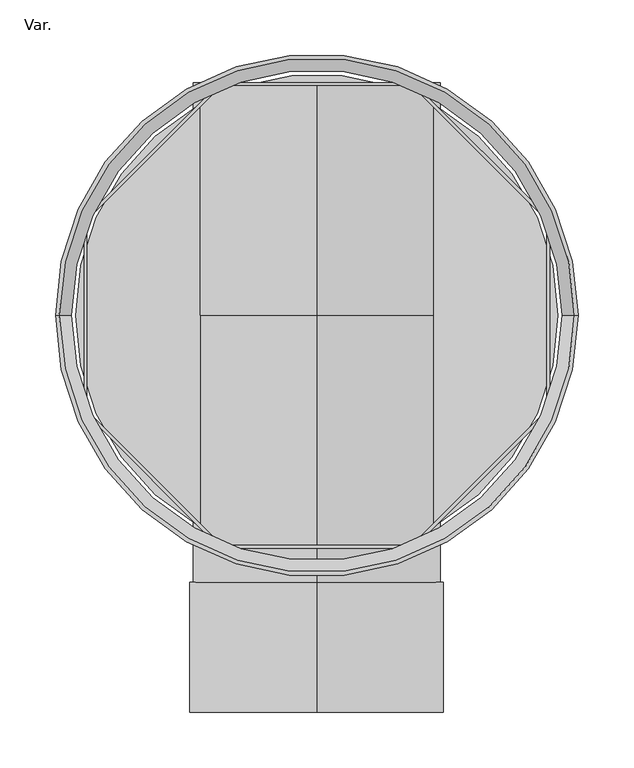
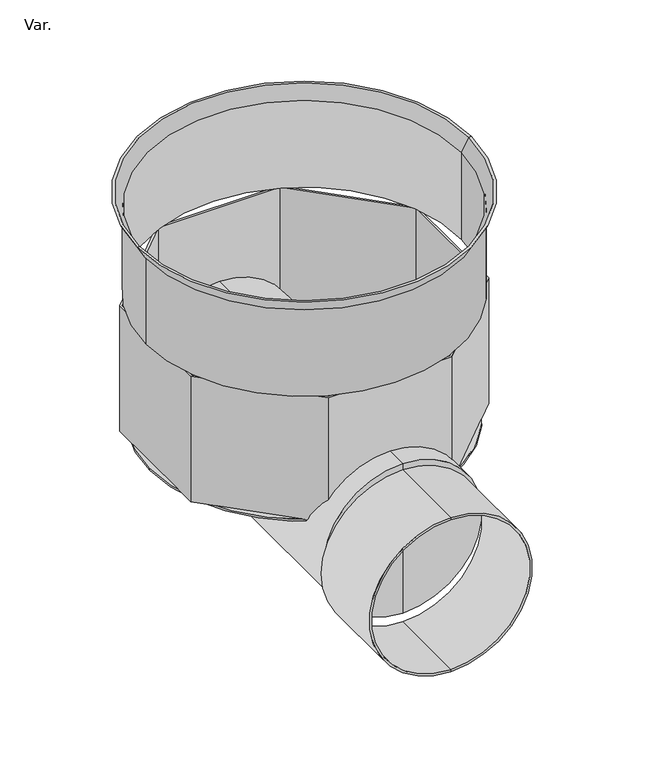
"""IFC4 building model written with IfcOpenShell, lengths in millimetres: pipe fitting geometry, PlastigamaWavin_Unionesdetubería_NovafortCajaAceraArranque220mm : Var.."""

import ifcopenshell
import ifcopenshell.guid

model = None  # the IFC model being written
_history = None  # IfcOwnerHistory: only IFC2X3 demands one
_inside = {}  # id of a spatial element -> (the spatial element, [elements in it])
_under = {}  # id of a project, library or spatial element -> (it, [spatial elements below it])
_declared = {}  # id of a project -> (the project, [libraries it declares])
_typed = {}  # id of a type object -> (the type object, [elements of that type])
_made_of = {}  # id of a material, layer set ... -> (it, [elements and type objects made of it])


def new_model(schema):
    """Start an empty IFC model of exactly this schema.

    Asked for "IFC4X3", IfcOpenShell would pick the latest addendum, in which some entities
    have other attributes; the version numbers below select the first issue.
    IFC2X3 requires an IfcOwnerHistory on every rooted entity: one is made here for all.
    """
    global model, _history
    if schema == "IFC4X3":
        model = ifcopenshell.file(schema_version=(4, 3, 0, 0))
    else:
        model = ifcopenshell.file(schema=schema)
    _inside.clear()
    _under.clear()
    _declared.clear()
    _typed.clear()
    _made_of.clear()
    _history = None
    if model.schema == "IFC2X3":
        org = make("IfcOrganization", Name="unknown")
        user = make(
            "IfcPersonAndOrganization",
            ThePerson=make("IfcPerson", FamilyName="unknown"),
            TheOrganization=org,
        )
        app = make(
            "IfcApplication",
            ApplicationDeveloper=org,
            Version="unknown",
            ApplicationFullName="unknown",
            ApplicationIdentifier="unknown",
        )
        _history = make(
            "IfcOwnerHistory",
            OwningUser=user,
            OwningApplication=app,
            ChangeAction="ADDED",
            CreationDate=0,
        )
    return model


def make(cls, **values):
    """One entity of the class cls with the attributes given. An attribute that is None is left unset."""
    return model.create_entity(
        cls, **{name: value for name, value in values.items() if value is not None}
    )


def rooted(cls, **values):
    """An entity with a GlobalId (a new one), such as an element, a storey or a relation."""
    return make(cls, GlobalId=ifcopenshell.guid.new(), OwnerHistory=_history, **values)


def si_unit(unit_type, name, prefix=None):
    """IfcSIUnit, for example si_unit("LENGTHUNIT", "METRE", prefix="MILLI")."""
    return make("IfcSIUnit", UnitType=unit_type, Prefix=prefix, Name=name)


def assignment(units):
    """IfcUnitAssignment: the units of a project."""
    return None if units is None else make("IfcUnitAssignment", Units=units)


def point(xyz):
    """IfcCartesianPoint."""
    return None if xyz is None else make("IfcCartesianPoint", Coordinates=xyz)


def direction(xyz):
    """IfcDirection."""
    return None if xyz is None else make("IfcDirection", DirectionRatios=xyz)


def frame(location, z_axis=None, x_axis=None):
    """IfcAxis2Placement3D, a coordinate frame: its origin and axes. An axis left out is left unset."""
    return make(
        "IfcAxis2Placement3D",
        Location=point(location),
        Axis=direction(z_axis),
        RefDirection=direction(x_axis),
    )


def frame_2d(location, x_axis=None):
    """IfcAxis2Placement2D, a coordinate frame in the plane: its origin and x axis."""
    return make(
        "IfcAxis2Placement2D", Location=point(location), RefDirection=direction(x_axis)
    )


def origin():
    """The frame at (0, 0, 0) with its axes left unset."""
    return frame((0.0, 0.0, 0.0))


def origin_with_axes():
    """The frame at (0, 0, 0) with the z axis (0, 0, 1) and the x axis (1, 0, 0) written out."""
    return frame((0.0, 0.0, 0.0), z_axis=(0.0, 0.0, 1.0), x_axis=(1.0, 0.0, 0.0))


def origin_2d():
    """The frame at (0, 0) in the plane with its x axis left unset."""
    return frame_2d((0.0, 0.0))


def place(relative_to, where):
    """IfcLocalPlacement: puts the frame where relative to a parent placement (None: the world)."""
    return make(
        "IfcLocalPlacement", PlacementRelTo=relative_to, RelativePlacement=where
    )


def context(
    kind, dimensions, precision=None, world=None, true_north=None, identifier=None
):
    """IfcGeometricRepresentationContext, for example the 3D "Model" context."""
    return make(
        "IfcGeometricRepresentationContext",
        ContextIdentifier=identifier,
        ContextType=kind,
        CoordinateSpaceDimension=dimensions,
        Precision=precision,
        WorldCoordinateSystem=world,
        TrueNorth=true_north,
    )


def project(units=None, contexts=None):
    """IfcProject with its units and contexts."""
    return rooted(
        "IfcProject",
        Name="project",
        RepresentationContexts=contexts,
        UnitsInContext=assignment(units),
    )


def spatial(cls, under=None, at=None, **own):
    """A site, building, storey or space (cls), placed at a placement, below another one or the project."""
    s = rooted(cls, ObjectPlacement=at, **own)
    if under is not None:
        _under.setdefault(under.id(), (under, []))[1].append(s)
    return s


def polyline(points):
    """IfcPolyline through the points."""
    return make("IfcPolyline", Points=[point(p) for p in points])


def circle_curve(where, radius):
    """IfcCircle in the frame where."""
    return make("IfcCircle", Position=where, Radius=radius)


def trimmed(basis, trim1, trim2, sense, master):
    """IfcTrimmedCurve: the piece of a basis curve between two trims."""
    return make(
        "IfcTrimmedCurve",
        BasisCurve=basis,
        Trim1=trim1,
        Trim2=trim2,
        SenseAgreement=sense,
        MasterRepresentation=master,
    )


def segment(curve, same_sense, transition):
    """IfcCompositeCurveSegment."""
    return make(
        "IfcCompositeCurveSegment",
        Transition=transition,
        SameSense=same_sense,
        ParentCurve=curve,
    )


def composite_curve(segments, self_intersect=None):
    """IfcCompositeCurve: segments joined end to end."""
    return make("IfcCompositeCurve", Segments=segments, SelfIntersect=self_intersect)


def outline(outer, holes=None, kind="AREA"):
    """IfcArbitraryClosedProfileDef: a profile drawn as a closed curve; with holes, ...WithVoids."""
    if holes is None:
        return make("IfcArbitraryClosedProfileDef", ProfileType=kind, OuterCurve=outer)
    return make(
        "IfcArbitraryProfileDefWithVoids",
        ProfileType=kind,
        OuterCurve=outer,
        InnerCurves=holes,
    )


def extrude(swept, where, along, depth):
    """IfcExtrudedAreaSolid: the profile swept, set in the frame where, extruded along a direction by depth."""
    return make(
        "IfcExtrudedAreaSolid",
        SweptArea=swept,
        Position=where,
        ExtrudedDirection=direction(along),
        Depth=depth,
    )


def shape(context_of_items, identifier, shape_type, items):
    """IfcShapeRepresentation: the items that make up one representation, for example the "Body"."""
    return make(
        "IfcShapeRepresentation",
        ContextOfItems=context_of_items,
        RepresentationIdentifier=identifier,
        RepresentationType=shape_type,
        Items=items,
    )


def source(mapping_origin, context_of_items, identifier, shape_type, items):
    """IfcRepresentationMap: a shape defined once, which mapped items show again and again."""
    return make(
        "IfcRepresentationMap",
        MappingOrigin=mapping_origin,
        MappedRepresentation=shape(context_of_items, identifier, shape_type, items),
    )


def transform(
    local_origin,
    x_axis=None,
    y_axis=None,
    z_axis=None,
    scale=None,
    scale2=None,
    scale3=None,
    uniform=True,
):
    """IfcCartesianTransformationOperator3D, or its non-uniform kind. x_axis, y_axis, z_axis: its Axis1, 2, 3."""
    if uniform:
        return make(
            "IfcCartesianTransformationOperator3D",
            Axis1=direction(x_axis),
            Axis2=direction(y_axis),
            LocalOrigin=point(local_origin),
            Scale=scale,
            Axis3=direction(z_axis),
        )
    return make(
        "IfcCartesianTransformationOperator3DnonUniform",
        Axis1=direction(x_axis),
        Axis2=direction(y_axis),
        LocalOrigin=point(local_origin),
        Scale=scale,
        Axis3=direction(z_axis),
        Scale2=scale2,
        Scale3=scale3,
    )


def mapped(mapping_source, mapping_target):
    """IfcMappedItem: shows the shape of a source again, moved by a transform."""
    return make(
        "IfcMappedItem", MappingSource=mapping_source, MappingTarget=mapping_target
    )


def made_of(thing, what):
    """Note that an element or type object is made of a material, layer set ...; save() writes the relation."""
    if what is not None:
        _made_of.setdefault(what.id(), (what, []))[1].append(thing)
    return thing


def element(
    cls,
    number,
    at=None,
    inside=None,
    cuts=None,
    type_object=None,
    material=None,
    context=None,
    identifier="Body",
    shape_type=None,
    held_by="IfcProductDefinitionShape",
    body=None,
    shapes=None,
    **own,
):
    """One element of the class cls, such as IfcWall. Its Tag is "e" and its number.

    at: its placement. inside: the storey or other place that contains it. cuts: it is an
    opening in that element (IfcRelVoidsElement). A single representation is given by context,
    identifier, shape_type and body (its items); several are given by shapes. held_by: the class
    of the entity that holds the representations. save() writes the other relations.
    """
    e = rooted(cls, Tag="e%d" % number, ObjectPlacement=at, **own)
    if body is not None:
        shapes = [shape(context, identifier, shape_type, body)]
    if shapes is not None:
        e.Representation = make(held_by, Representations=shapes)
    if inside is not None:
        _inside.setdefault(inside.id(), (inside, []))[1].append(e)
    if cuts is not None:
        rooted(
            "IfcRelVoidsElement", RelatingBuildingElement=cuts, RelatedOpeningElement=e
        )
    if type_object is not None:
        _typed.setdefault(type_object.id(), (type_object, []))[1].append(e)
    return made_of(e, material)


def aggregate(whole, parts):
    """IfcRelAggregates: a whole, such as a stair, and the parts it consists of."""
    return rooted("IfcRelAggregates", RelatingObject=whole, RelatedObjects=parts)


def save(model, path):
    """Write the relations noted so far, then the file.

    IfcRelAggregates (storeys below a building ...), IfcRelContainedInSpatialStructure (elements
    in a storey), IfcRelDefinesByType, IfcRelAssociatesMaterial and IfcRelDeclares: one each for
    every whole, place, type object, material and project.
    """
    for whole, parts in _under.values():
        aggregate(whole, parts)
    for where, things in _inside.values():
        rooted(
            "IfcRelContainedInSpatialStructure",
            RelatedElements=things,
            RelatingStructure=where,
        )
    for kind, things in _typed.values():
        rooted("IfcRelDefinesByType", RelatedObjects=things, RelatingType=kind)
    for what, things in _made_of.values():
        rooted("IfcRelAssociatesMaterial", RelatedObjects=things, RelatingMaterial=what)
    for by, libraries in _declared.values():
        rooted("IfcRelDeclares", RelatingContext=by, RelatedDefinitions=libraries)
    model.write(path)


def plane_surface(at):
    """IfcPlane: the flat surface through the origin of the frame at, square to its z axis."""
    return make("IfcPlane", Position=at)


def cylinder_surface(at, radius):
    """IfcCylindricalSurface: all points at the distance radius from the z axis of the frame at."""
    return make("IfcCylindricalSurface", Position=at, Radius=radius)


def revolved_surface(curve, axis_point, axis_direction):
    """IfcSurfaceOfRevolution: the curve turned about the line through axis_point along axis_direction."""
    return make(
        "IfcSurfaceOfRevolution",
        SweptCurve=make("IfcArbitraryOpenProfileDef", ProfileType="CURVE", Curve=curve),
        AxisPosition=make("IfcAxis1Placement", Location=point(axis_point), Axis=direction(axis_direction)),
    )


def advanced_brep(points, edges, surfaces, faces):
    """IfcAdvancedBrep: a solid bounded by faces that lie on surfaces and meet in shared edges.

    An edge is (start, end): straight between two places in points (the first is 0);
    or (start, end, curve); or (start, end, curve, False) where it runs against its curve.
    A face is (place in surfaces, loops), or (place, loops, False) where it looks against
    its surface's normal. A loop lists edges by number (the first is 1), with a minus sign
    where the edge is run from its end to its start. The first loop is the outer one.
    """
    corners = [point(p) for p in points]
    vertices = [make("IfcVertexPoint", VertexGeometry=c) for c in corners]
    made = []
    for start, end, *more in edges:
        made.append(
            make(
                "IfcEdgeCurve",
                EdgeStart=vertices[start],
                EdgeEnd=vertices[end],
                EdgeGeometry=more[0] if more else make("IfcPolyline", Points=[corners[start], corners[end]]),
                SameSense=more[1] if len(more) > 1 else True,
            )
        )
    hull = []
    for where, loops, *sense in faces:
        bounds = []
        for j, loop in enumerate(loops):
            ring = [make("IfcOrientedEdge", EdgeElement=made[abs(k) - 1], Orientation=k > 0) for k in loop]
            bounds.append(
                make(
                    "IfcFaceOuterBound" if j == 0 else "IfcFaceBound",
                    Bound=make("IfcEdgeLoop", EdgeList=ring),
                    Orientation=True,
                )
            )
        hull.append(make("IfcAdvancedFace", Bounds=bounds, FaceSurface=surfaces[where], SameSense=sense[0] if sense else True))
    return make("IfcAdvancedBrep", Outer=make("IfcClosedShell", CfsFaces=hull))


def var_989bb4be(model_context):
    return source(origin(), model_context, "Body", "SolidModel", [
        advanced_brep(
        [(-231.6019238, 0.0, 148.8205081), (231.6019238, 0.0, 148.8205081), (235.0660254, 0.0, 148.8205081), (-235.0660254, 0.0, 148.8205081), (-220.7358984, 0.0, 130.0), (220.7358984, 0.0, 130.0), (-224.2, 0.0, 130.0), (224.2, 0.0, 130.0)],
        [
            (0, 1, circle_curve(frame((0.0, 0.0, 148.8205081), z_axis=(0.0, 0.0, -1.0), x_axis=(1.0, 0.0, 0.0)), 231.6019238)),
            (1, 2),
            (2, 3, circle_curve(frame((0.0, 0.0, 148.8205081), z_axis=(0.0, 0.0, 1.0), x_axis=(1.0, 0.0, 0.0)), 235.0660254)),
            (3, 0),
            (1, 0, circle_curve(frame((0.0, 0.0, 148.8205081), z_axis=(0.0, 0.0, -1.0), x_axis=(1.0, 0.0, 0.0)), 231.6019238)),
            (3, 2, circle_curve(frame((0.0, 0.0, 148.8205081), z_axis=(0.0, 0.0, 1.0), x_axis=(1.0, 0.0, 0.0)), 235.0660254)),
            (4, 5, circle_curve(frame((0.0, 0.0, 130.0), z_axis=(0.0, 0.0, -1.0), x_axis=(1.0, 0.0, 0.0)), 220.7358984)),
            (5, 1),
            (0, 4),
            (5, 4, circle_curve(frame((0.0, 0.0, 130.0), z_axis=(0.0, 0.0, -1.0), x_axis=(1.0, 0.0, 0.0)), 220.7358984)),
            (6, 7, circle_curve(frame((0.0, 0.0, 130.0), z_axis=(0.0, 0.0, -1.0), x_axis=(1.0, 0.0, 0.0)), 224.2)),
            (7, 5),
            (4, 6),
            (7, 6, circle_curve(frame((0.0, 0.0, 130.0), z_axis=(0.0, 0.0, -1.0), x_axis=(1.0, 0.0, 0.0)), 224.2)),
            (2, 7),
            (6, 3),
        ],
        [
            plane_surface(frame((0.0, 0.0, 148.8205081), z_axis=(0.0, 0.0, 1.0), x_axis=(1.0, 0.0, 0.0))),
            revolved_surface(polyline([(231.6019238, 0.0, 148.8205081), (220.7358984, 0.0, 130.0)]), (0.0, 0.0, 2214.3150031), (0.0, 0.0, 1.0)),
            plane_surface(frame((0.0, 0.0, 130.0), z_axis=(0.0, 0.0, -1.0), x_axis=(1.0, 0.0, 0.0))),
            revolved_surface(polyline([(224.2, 0.0, 130.0), (235.0660254, 0.0, 148.8205081)]), (0.0, 0.0, 2214.3150031), (0.0, 0.0, 1.0)),
        ],
        [
            (0, [[1, 2, 3, 4]]),
            (0, [[5, -4, 6, -2]]),
            (1, [[7, 8, -1, 9]]),
            (1, [[10, -9, -5, -8]]),
            (2, [[11, 12, -7, 13]]),
            (2, [[14, -13, -10, -12]]),
            (3, [[-3, 15, -11, 16]]),
            (3, [[-6, -16, -14, -15]]),
        ],
    ),
        advanced_brep(
        [(0.0, 209.44, -331.99), (0.0, 209.44, -109.99), (0.0, 209.44, -220.99), (0.0, 0.0, -220.99), (0.0, 0.0, -109.99), (0.0, 0.0, -331.99)],
        [
            (0, 1, circle_curve(frame((0.0, 209.44, -220.99), z_axis=(0.0, 1.0, 0.0), x_axis=(0.0, 0.0, 1.0)), 111.0)),
            (1, 2),
            (2, 0),
            (1, 0, circle_curve(frame((0.0, 209.44, -220.99), z_axis=(0.0, 1.0, 0.0), x_axis=(0.0, 0.0, 1.0)), 111.0)),
            (3, 4),
            (4, 5, circle_curve(frame((0.0, 0.0, -220.99), z_axis=(0.0, -1.0, 0.0), x_axis=(0.0, 0.0, 1.0)), 111.0)),
            (5, 3),
            (5, 4, circle_curve(frame((0.0, 0.0, -220.99), z_axis=(0.0, -1.0, 0.0), x_axis=(0.0, 0.0, 1.0)), 111.0)),
            (4, 1),
            (0, 5),
        ],
        [
            plane_surface(frame((0.0, 209.44, -220.99), z_axis=(0.0, 1.0, 0.0), x_axis=(0.0, 0.0, 1.0))),
            plane_surface(frame((0.0, 0.0, -220.99), z_axis=(0.0, -1.0, 0.0), x_axis=(0.0, 0.0, 1.0))),
            cylinder_surface(frame((0.0, 0.0, -220.99), z_axis=(0.0, -1.0, 0.0), x_axis=(0.0, 0.0, 1.0)), 111.0),
        ],
        [
            (0, [[1, 2, 3]]),
            (0, [[4, -3, -2]]),
            (1, [[5, 6, 7]]),
            (1, [[-7, 8, -5]]),
            (2, [[-6, 9, -1, 10]]),
            (2, [[-8, -10, -4, -9]]),
        ],
    ),
        extrude(outline(composite_curve([segment(trimmed(circle_curve(origin_2d(), 217.0), [point((-217.0, 0.0))], [point((217.0, 0.0))], False, "CARTESIAN"), True, "CONTINUOUS"), segment(trimmed(circle_curve(origin_2d(), 217.0), [point((217.0, 0.0))], [point((-217.0, 0.0))], False, "CARTESIAN"), True, "CONTINUOUS")], self_intersect=False)), frame((0.0, 0.0, -189.41), z_axis=(0.0, 0.0, 1.0), x_axis=(1.0, 0.0, 0.0)), (0.0, 0.0, 1.0), 3.0),
        advanced_brep(
        [(0.0, -357.2, -345.15), (0.0, -357.2, -122.15), (0.0, -357.2, -119.15), (0.0, -357.2, -348.15), (0.0, -240.2, -348.15), (0.0, -240.2, -119.15), (0.0, -240.2, -122.15), (0.0, -240.2, -345.15)],
        [
            (0, 1, circle_curve(frame((0.0, -357.2, -233.65), z_axis=(0.0, 1.0, 0.0), x_axis=(0.0, 0.0, 1.0)), 111.5)),
            (1, 2),
            (2, 3, circle_curve(frame((0.0, -357.2, -233.65), z_axis=(0.0, -1.0, 0.0), x_axis=(0.0, 0.0, 1.0)), 114.5)),
            (3, 0),
            (1, 0, circle_curve(frame((0.0, -357.2, -233.65), z_axis=(0.0, 1.0, 0.0), x_axis=(0.0, 0.0, 1.0)), 111.5)),
            (3, 2, circle_curve(frame((0.0, -357.2, -233.65), z_axis=(0.0, -1.0, 0.0), x_axis=(0.0, 0.0, 1.0)), 114.5)),
            (4, 5, circle_curve(frame((0.0, -240.2, -233.65), z_axis=(0.0, 1.0, 0.0), x_axis=(0.0, 0.0, 1.0)), 114.5)),
            (5, 6),
            (6, 7, circle_curve(frame((0.0, -240.2, -233.65), z_axis=(0.0, -1.0, 0.0), x_axis=(0.0, 0.0, 1.0)), 111.5)),
            (7, 4),
            (5, 4, circle_curve(frame((0.0, -240.2, -233.65), z_axis=(0.0, 1.0, 0.0), x_axis=(0.0, 0.0, 1.0)), 114.5)),
            (7, 6, circle_curve(frame((0.0, -240.2, -233.65), z_axis=(0.0, -1.0, 0.0), x_axis=(0.0, 0.0, 1.0)), 111.5)),
            (2, 5),
            (4, 3),
            (6, 1),
            (0, 7),
        ],
        [
            plane_surface(frame((0.0, -357.2, -233.65), z_axis=(0.0, -1.0, 0.0), x_axis=(0.0, 0.0, 1.0))),
            plane_surface(frame((0.0, -240.2, -233.65), z_axis=(0.0, 1.0, 0.0), x_axis=(0.0, 0.0, 1.0))),
            cylinder_surface(frame((0.0, -249.0327013, -233.65), z_axis=(0.0, -1.0, 0.0), x_axis=(0.0, 0.0, 1.0)), 114.5),
            revolved_surface(polyline([(0.0, -357.2, -122.15), (0.0, -240.2, -122.15)]), (0.0, -249.0327013, -233.65), (0.0, -1.0, 0.0)),
        ],
        [
            (0, [[1, 2, 3, 4]]),
            (0, [[5, -4, 6, -2]]),
            (1, [[7, 8, 9, 10]]),
            (1, [[11, -10, 12, -8]]),
            (2, [[-3, 13, -7, 14]]),
            (2, [[-6, -14, -11, -13]]),
            (3, [[-9, 15, -1, 16]]),
            (3, [[-12, -16, -5, -15]]),
        ],
    ),
        advanced_brep(
        [(0.0, -240.2, -220.99), (0.0, -240.2, -109.99), (0.0, -240.2, -331.99), (0.0, 0.0, -331.99), (0.0, 0.0, -109.99), (0.0, 0.0, -220.99)],
        [
            (0, 1),
            (1, 2, circle_curve(frame((0.0, -240.2, -220.99), z_axis=(0.0, -1.0, 0.0), x_axis=(0.0, 0.0, 1.0)), 111.0)),
            (2, 0),
            (2, 1, circle_curve(frame((0.0, -240.2, -220.99), z_axis=(0.0, -1.0, 0.0), x_axis=(0.0, 0.0, 1.0)), 111.0)),
            (3, 4, circle_curve(frame((0.0, 0.0, -220.99), z_axis=(0.0, 1.0, 0.0), x_axis=(0.0, 0.0, 1.0)), 111.0)),
            (4, 5),
            (5, 3),
            (4, 3, circle_curve(frame((0.0, 0.0, -220.99), z_axis=(0.0, 1.0, 0.0), x_axis=(0.0, 0.0, 1.0)), 111.0)),
            (1, 4),
            (3, 2),
        ],
        [
            plane_surface(frame((0.0, -240.2, -220.99), z_axis=(0.0, -1.0, 0.0), x_axis=(0.0, 0.0, 1.0))),
            plane_surface(frame((0.0, 0.0, -220.99), z_axis=(0.0, 1.0, 0.0), x_axis=(0.0, 0.0, 1.0))),
            cylinder_surface(frame((0.0, 0.0, -220.99), z_axis=(0.0, -1.0, 0.0), x_axis=(0.0, 0.0, 1.0)), 111.0),
        ],
        [
            (0, [[1, 2, 3]]),
            (0, [[-3, 4, -1]]),
            (1, [[5, 6, 7]]),
            (1, [[8, -7, -6]]),
            (2, [[-2, 9, -5, 10]]),
            (2, [[-4, -10, -8, -9]]),
        ],
    ),
        extrude(outline(composite_curve([segment(trimmed(circle_curve(origin_2d(), 222.2), [point((-222.2, 0.0))], [point((222.2, 0.0))], False, "CARTESIAN"), True, "CONTINUOUS"), segment(trimmed(circle_curve(origin_2d(), 222.2), [point((222.2, 0.0))], [point((-222.2, 0.0))], False, "CARTESIAN"), True, "CONTINUOUS")], self_intersect=False), holes=[composite_curve([segment(trimmed(circle_curve(origin_2d(), 222.0), [point((-222.0, 0.0))], [point((222.0, 0.0))], True, "CARTESIAN"), True, "CONTINUOUS"), segment(trimmed(circle_curve(origin_2d(), 222.0), [point((222.0, 0.0))], [point((-222.0, 0.0))], True, "CARTESIAN"), True, "CONTINUOUS")], self_intersect=False)]), origin_with_axes(), (0.0, 0.0, 1.0), 130.0),
        extrude(outline(polyline([(-209.44, 86.7528885), (-86.7528885, 209.44), (86.7528885, 209.44), (209.44, 86.7528885), (209.44, -86.7528885), (86.7528885, -209.44), (-86.7528885, -209.44), (-209.44, -86.7528885), (-209.44, 86.7528885)]), holes=[polyline([(206.44, 85.5102478), (85.5102478, 206.44), (-85.5102478, 206.44), (-206.44, 85.5102478), (-206.44, -85.5102478), (-85.5102478, -206.44), (85.5102478, -206.44), (206.44, -85.5102478), (206.44, 85.5102478)])]), frame((0.0, 0.0, -186.41), z_axis=(0.0, 0.0, 1.0), x_axis=(1.0, 0.0, 0.0)), (0.0, 0.0, 1.0), 186.41),
    ])


if __name__ == "__main__":
    model = new_model("IFC4")
    model_context = context("Model", 3, world=origin())
    ifc_project = project(units=[si_unit("LENGTHUNIT", "METRE", prefix="MILLI")], contexts=[model_context])
    site = spatial("IfcSite", under=ifc_project)
    building = spatial("IfcBuilding", under=site)
    placement = place(None, origin())
    var_shape = var_989bb4be(model_context)
    element("IfcPipeFitting", 1, ObjectType="PlastigamaWavin_Unionesdetubería_NovafortCajaAceraArranque220mm : Var.", at=placement, inside=building, context=model_context, shape_type="MappedRepresentation", body=[
        mapped(var_shape, transform((0.0, 0.0, 0.0), x_axis=(1.0, 0.0, 0.0), y_axis=(0.0, 1.0, 0.0), z_axis=(0.0, 0.0, 1.0))),
    ])
    save(model, "model.ifc")
